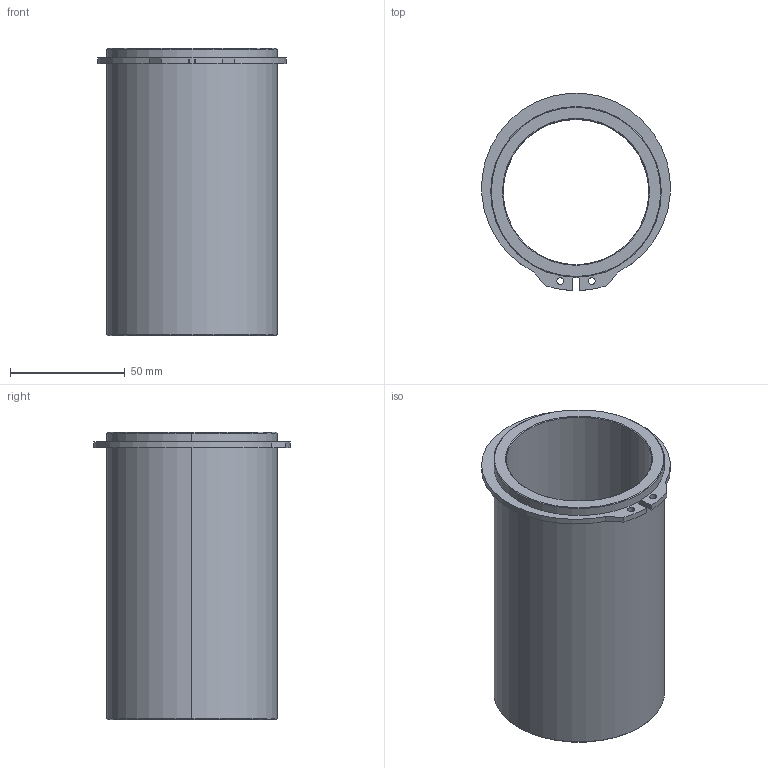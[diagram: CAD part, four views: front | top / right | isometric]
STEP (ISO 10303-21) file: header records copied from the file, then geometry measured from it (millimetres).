
FILE_DESCRIPTION((''),'2;1');
FILE_NAME('C13_063_125.stp','2008-12-17T15:04:52',(''),(''),'Mechanical Desktop 2009','Mechanical Desktop 2009',', , ');
FILE_SCHEMA(('CONFIG_CONTROL_DESIGN'));
Length unit declared in the file: millimetre
Products named in the file (2): Product; blmdl1
Assembly tree (1 placements, depth 2):
  Product
    blmdl1
Bounding box: 81.98 x 85.7 x 125 mm (x, y, z)
Volume: 149810.6 mm3; surface area: 60715 mm2
Topology: 2 solids, 2 shells, 34 faces, 76 edges, 48 vertices
Faces by surface type: cylinder 16, plane 10, cone 8
Entity records: 1075 total; most frequent: DIRECTION 188, CARTESIAN_POINT 160, ORIENTED_EDGE 152, AXIS2_PLACEMENT_3D 76, EDGE_CURVE 76, VERTEX_POINT 48, EDGE_LOOP 42, CIRCLE 40
